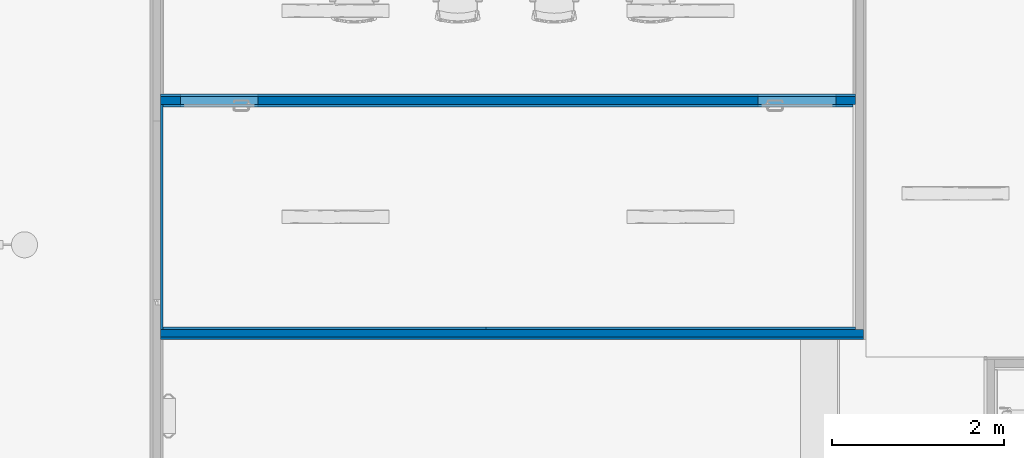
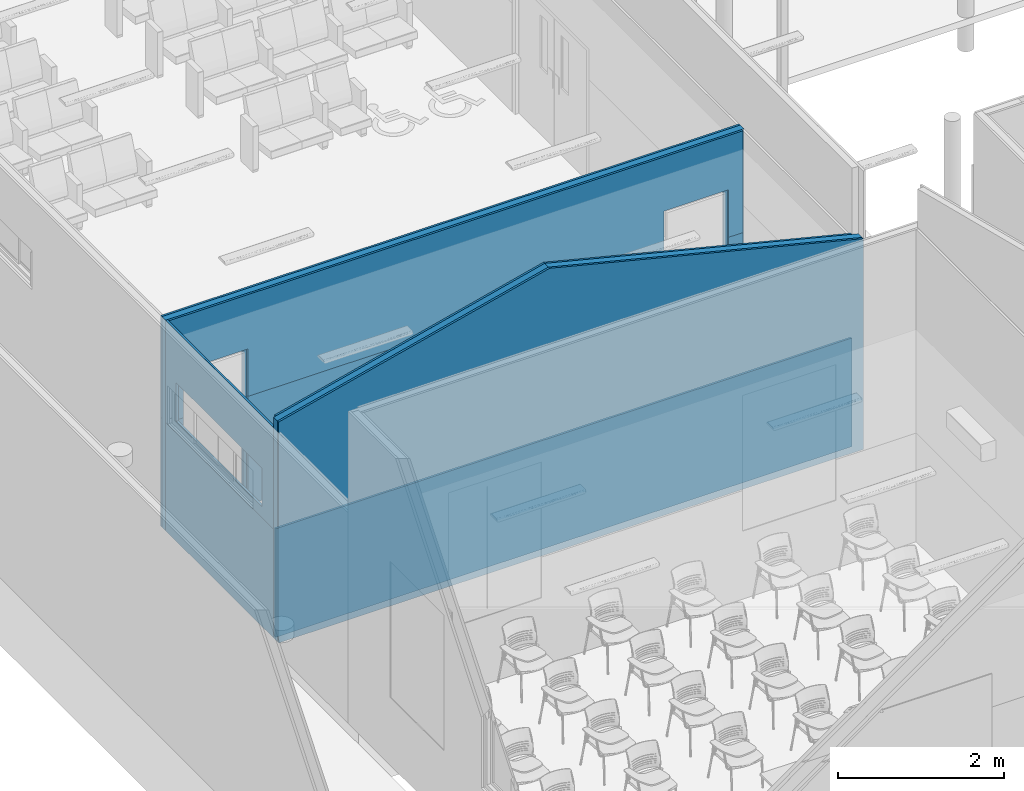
# One storey, part 14 of 155: 11 walls, 28 openings.
"""IFC2X3 building model written with IfcOpenShell, lengths in metres."""

import ifcopenshell
import ifcopenshell.guid

model = None  # the IFC model being written
_history = None  # IfcOwnerHistory: only IFC2X3 demands one
_inside = {}  # id of a spatial element -> (the spatial element, [elements in it])
_under = {}  # id of a project, library or spatial element -> (it, [spatial elements below it])
_declared = {}  # id of a project -> (the project, [libraries it declares])
_typed = {}  # id of a type object -> (the type object, [elements of that type])
_made_of = {}  # id of a material, layer set ... -> (it, [elements and type objects made of it])


def new_model(schema):
    """Start an empty IFC model of exactly this schema.

    Asked for "IFC4X3", IfcOpenShell would pick the latest addendum, in which some entities
    have other attributes; the version numbers below select the first issue.
    IFC2X3 requires an IfcOwnerHistory on every rooted entity: one is made here for all.
    """
    global model, _history
    if schema == "IFC4X3":
        model = ifcopenshell.file(schema_version=(4, 3, 0, 0))
    else:
        model = ifcopenshell.file(schema=schema)
    _inside.clear()
    _under.clear()
    _declared.clear()
    _typed.clear()
    _made_of.clear()
    _history = None
    if model.schema == "IFC2X3":
        org = make("IfcOrganization", Name="unknown")
        user = make(
            "IfcPersonAndOrganization",
            ThePerson=make("IfcPerson", FamilyName="unknown"),
            TheOrganization=org,
        )
        app = make(
            "IfcApplication",
            ApplicationDeveloper=org,
            Version="unknown",
            ApplicationFullName="unknown",
            ApplicationIdentifier="unknown",
        )
        _history = make(
            "IfcOwnerHistory",
            OwningUser=user,
            OwningApplication=app,
            ChangeAction="ADDED",
            CreationDate=0,
        )
    return model


def make(cls, **values):
    """One entity of the class cls with the attributes given. An attribute that is None is left unset."""
    return model.create_entity(
        cls, **{name: value for name, value in values.items() if value is not None}
    )


def entity(cls, *values):
    """Any entity or typed value of the class cls, its attributes in the order of the schema. None: left unset."""
    e = model.create_entity(cls)
    for i, value in enumerate(values):
        if value is not None:
            e[i] = value
    return e


def rooted(cls, **values):
    """An entity with a GlobalId (a new one), such as an element, a storey or a relation."""
    return make(cls, GlobalId=ifcopenshell.guid.new(), OwnerHistory=_history, **values)


def si_unit(unit_type, name, prefix=None):
    """IfcSIUnit, for example si_unit("LENGTHUNIT", "METRE", prefix="MILLI")."""
    return make("IfcSIUnit", UnitType=unit_type, Prefix=prefix, Name=name)


def converted_unit(unit_type, name, factor, base, dimensions=None, offset=None):
    """IfcConversionBasedUnit, such as the inch: factor (a typed value) times the base unit."""
    return make(
        "IfcConversionBasedUnit"
        if offset is None
        else "IfcConversionBasedUnitWithOffset",
        ConversionOffset=offset,
        Dimensions=None
        if dimensions is None
        else entity("IfcDimensionalExponents", *dimensions),
        UnitType=unit_type,
        Name=name,
        ConversionFactor=make(
            "IfcMeasureWithUnit", ValueComponent=factor, UnitComponent=base
        ),
    )


def derived_unit(unit_type, elements):
    """IfcDerivedUnit: a product of units, each with its exponent."""
    return make(
        "IfcDerivedUnit",
        Elements=[
            make("IfcDerivedUnitElement", Unit=unit, Exponent=power)
            for unit, power in elements
        ],
        UnitType=unit_type,
    )


def assignment(units):
    """IfcUnitAssignment: the units of a project."""
    return None if units is None else make("IfcUnitAssignment", Units=units)


def point(xyz):
    """IfcCartesianPoint."""
    return None if xyz is None else make("IfcCartesianPoint", Coordinates=xyz)


def direction(xyz):
    """IfcDirection."""
    return None if xyz is None else make("IfcDirection", DirectionRatios=xyz)


def frame(location, z_axis=None, x_axis=None):
    """IfcAxis2Placement3D, a coordinate frame: its origin and axes. An axis left out is left unset."""
    return make(
        "IfcAxis2Placement3D",
        Location=point(location),
        Axis=direction(z_axis),
        RefDirection=direction(x_axis),
    )


def frame_2d(location, x_axis=None):
    """IfcAxis2Placement2D, a coordinate frame in the plane: its origin and x axis."""
    return make(
        "IfcAxis2Placement2D", Location=point(location), RefDirection=direction(x_axis)
    )


def origin():
    """The frame at (0, 0, 0) with its axes left unset."""
    return frame((0.0, 0.0, 0.0))


def place(relative_to, where):
    """IfcLocalPlacement: puts the frame where relative to a parent placement (None: the world)."""
    return make(
        "IfcLocalPlacement", PlacementRelTo=relative_to, RelativePlacement=where
    )


def context(
    kind, dimensions, precision=None, world=None, true_north=None, identifier=None
):
    """IfcGeometricRepresentationContext, for example the 3D "Model" context."""
    return make(
        "IfcGeometricRepresentationContext",
        ContextIdentifier=identifier,
        ContextType=kind,
        CoordinateSpaceDimension=dimensions,
        Precision=precision,
        WorldCoordinateSystem=world,
        TrueNorth=true_north,
    )


def subcontext(parent, identifier, kind, view, scale=None):
    """IfcGeometricRepresentationSubContext, for example "Body" below "Model"."""
    return make(
        "IfcGeometricRepresentationSubContext",
        ContextIdentifier=identifier,
        ContextType=kind,
        ParentContext=parent,
        TargetScale=scale,
        TargetView=view,
    )


def project(units=None, contexts=None):
    """IfcProject with its units and contexts."""
    return rooted(
        "IfcProject",
        Name="project",
        RepresentationContexts=contexts,
        UnitsInContext=assignment(units),
    )


def spatial(cls, under=None, at=None, **own):
    """A site, building, storey or space (cls), placed at a placement, below another one or the project."""
    s = rooted(cls, ObjectPlacement=at, **own)
    if under is not None:
        _under.setdefault(under.id(), (under, []))[1].append(s)
    return s


def polyline(points):
    """IfcPolyline through the points."""
    return make("IfcPolyline", Points=[point(p) for p in points])


def profile(cls, at=None, kind="AREA", **sizes):
    """A parametric profile (cls). Its sizes go by their IFC names, for example OverallWidth=200.0."""
    return make(cls, ProfileType=kind, Position=at, **sizes)


def rectangle(**sizes):
    """IfcRectangleProfileDef."""
    return profile("IfcRectangleProfileDef", **sizes)


def extrude(swept, where, along, depth):
    """IfcExtrudedAreaSolid: the profile swept, set in the frame where, extruded along a direction by depth."""
    return make(
        "IfcExtrudedAreaSolid",
        SweptArea=swept,
        Position=where,
        ExtrudedDirection=direction(along),
        Depth=depth,
    )


def clip(a, b, op="DIFFERENCE"):
    """IfcBooleanClippingResult: the solid a cut by the half space b."""
    return make(
        "IfcBooleanClippingResult", Operator=op, FirstOperand=a, SecondOperand=b
    )


def bounded_halfspace(plane, agree, where, boundary):
    """IfcPolygonalBoundedHalfSpace: a half space limited to a polygon's prism."""
    return make(
        "IfcPolygonalBoundedHalfSpace",
        BaseSurface=make("IfcPlane", Position=plane),
        AgreementFlag=agree,
        Position=where,
        PolygonalBoundary=boundary,
    )


def shape(context_of_items, identifier, shape_type, items):
    """IfcShapeRepresentation: the items that make up one representation, for example the "Body"."""
    return make(
        "IfcShapeRepresentation",
        ContextOfItems=context_of_items,
        RepresentationIdentifier=identifier,
        RepresentationType=shape_type,
        Items=items,
    )


def material(Name=None, Category=None):
    """IfcMaterial."""
    return make("IfcMaterial", Name=Name, Category=Category)


def layer(
    of_material, thickness, ventilated=None, Name=None, Category=None, Priority=None
):
    """IfcMaterialLayer: one layer of a wall or slab, of a material (None: an air gap)."""
    return make(
        "IfcMaterialLayer",
        Material=of_material,
        LayerThickness=thickness,
        IsVentilated=ventilated,
        Name=Name,
        Category=Category,
        Priority=Priority,
    )


def layer_set(layers, Name=None):
    """IfcMaterialLayerSet."""
    return make("IfcMaterialLayerSet", MaterialLayers=layers, LayerSetName=Name)


def layer_usage(for_layer_set, set_direction, sense, offset, extent=None):
    """IfcMaterialLayerSetUsage: how a layer set lies in its element."""
    return make(
        "IfcMaterialLayerSetUsage",
        ForLayerSet=for_layer_set,
        LayerSetDirection=set_direction,
        DirectionSense=sense,
        OffsetFromReferenceLine=offset,
        ReferenceExtent=extent,
    )


def made_of(thing, what):
    """Note that an element or type object is made of a material, layer set ...; save() writes the relation."""
    if what is not None:
        _made_of.setdefault(what.id(), (what, []))[1].append(thing)
    return thing


def type_object(cls, material=None, **own):
    """A type object (cls), such as IfcWallType, which elements share."""
    return made_of(rooted(cls, **own), material)


def element(
    cls,
    number,
    at=None,
    inside=None,
    cuts=None,
    type_object=None,
    material=None,
    context=None,
    identifier="Body",
    shape_type=None,
    held_by="IfcProductDefinitionShape",
    body=None,
    shapes=None,
    **own,
):
    """One element of the class cls, such as IfcWall. Its Tag is "e" and its number.

    at: its placement. inside: the storey or other place that contains it. cuts: it is an
    opening in that element (IfcRelVoidsElement). A single representation is given by context,
    identifier, shape_type and body (its items); several are given by shapes. held_by: the class
    of the entity that holds the representations. save() writes the other relations.
    """
    e = rooted(cls, Tag="e%d" % number, ObjectPlacement=at, **own)
    if body is not None:
        shapes = [shape(context, identifier, shape_type, body)]
    if shapes is not None:
        e.Representation = make(held_by, Representations=shapes)
    if inside is not None:
        _inside.setdefault(inside.id(), (inside, []))[1].append(e)
    if cuts is not None:
        rooted(
            "IfcRelVoidsElement", RelatingBuildingElement=cuts, RelatedOpeningElement=e
        )
    if type_object is not None:
        _typed.setdefault(type_object.id(), (type_object, []))[1].append(e)
    return made_of(e, material)


def aggregate(whole, parts):
    """IfcRelAggregates: a whole, such as a stair, and the parts it consists of."""
    return rooted("IfcRelAggregates", RelatingObject=whole, RelatedObjects=parts)


def save(model, path):
    """Write the relations noted so far, then the file.

    IfcRelAggregates (storeys below a building ...), IfcRelContainedInSpatialStructure (elements
    in a storey), IfcRelDefinesByType, IfcRelAssociatesMaterial and IfcRelDeclares: one each for
    every whole, place, type object, material and project.
    """
    for whole, parts in _under.values():
        aggregate(whole, parts)
    for where, things in _inside.values():
        rooted(
            "IfcRelContainedInSpatialStructure",
            RelatedElements=things,
            RelatingStructure=where,
        )
    for kind, things in _typed.values():
        rooted("IfcRelDefinesByType", RelatedObjects=things, RelatingType=kind)
    for what, things in _made_of.values():
        rooted("IfcRelAssociatesMaterial", RelatedObjects=things, RelatingMaterial=what)
    for by, libraries in _declared.values():
        rooted("IfcRelDeclares", RelatingContext=by, RelatedDefinitions=libraries)
    model.write(path)


model = new_model("IFC2X3")

# Units and contexts
model_context = context("Model", 3, precision=1e-05, world=origin(), true_north=direction((6.12303176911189e-17, 1.0)))
body_context = subcontext(model_context, "Body", "Model", "MODEL_VIEW")
ifc_project = project(units=[si_unit("LENGTHUNIT", "METRE"), si_unit("AREAUNIT", "SQUARE_METRE"), si_unit("VOLUMEUNIT", "CUBIC_METRE"), converted_unit("PLANEANGLEUNIT", "DEGREE", entity("IfcRatioMeasure", 0.0174532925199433), si_unit("PLANEANGLEUNIT", "RADIAN"), dimensions=[0, 0, 0, 0, 0, 0, 0]), si_unit("MASSUNIT", "GRAM", prefix="KILO"), derived_unit("MASSDENSITYUNIT", [(si_unit("MASSUNIT", "GRAM", prefix="KILO"), 1), (si_unit("LENGTHUNIT", "METRE"), -3)]), si_unit("TIMEUNIT", "SECOND"), si_unit("FREQUENCYUNIT", "HERTZ"), si_unit("THERMODYNAMICTEMPERATUREUNIT", "DEGREE_CELSIUS"), derived_unit("THERMALTRANSMITTANCEUNIT", [(si_unit("MASSUNIT", "GRAM", prefix="KILO"), 1), (si_unit("THERMODYNAMICTEMPERATUREUNIT", "KELVIN"), -1), (si_unit("TIMEUNIT", "SECOND"), -3)]), derived_unit("VOLUMETRICFLOWRATEUNIT", [(si_unit("LENGTHUNIT", "METRE"), 3), (si_unit("TIMEUNIT", "SECOND"), -1)]), si_unit("ELECTRICCURRENTUNIT", "AMPERE"), si_unit("ELECTRICVOLTAGEUNIT", "VOLT"), si_unit("POWERUNIT", "WATT"), si_unit("FORCEUNIT", "NEWTON", prefix="KILO"), si_unit("ILLUMINANCEUNIT", "LUX"), si_unit("LUMINOUSFLUXUNIT", "LUMEN"), si_unit("LUMINOUSINTENSITYUNIT", "CANDELA"), derived_unit("USERDEFINED", [(si_unit("MASSUNIT", "GRAM", prefix="KILO"), -1), (si_unit("LENGTHUNIT", "METRE"), -2), (si_unit("TIMEUNIT", "SECOND"), 3), (si_unit("LUMINOUSFLUXUNIT", "LUMEN"), 1)]), derived_unit("LINEARVELOCITYUNIT", [(si_unit("LENGTHUNIT", "METRE"), 1), (si_unit("TIMEUNIT", "SECOND"), -1)]), si_unit("PRESSUREUNIT", "PASCAL"), derived_unit("USERDEFINED", [(si_unit("LENGTHUNIT", "METRE"), -2), (si_unit("MASSUNIT", "GRAM", prefix="KILO"), 1), (si_unit("TIMEUNIT", "SECOND"), -2)])], contexts=[model_context])

# Site, building, storey
site_placement = place(None, frame((26.9889013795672, -17.5624287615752, 0.0)))
site = spatial("IfcSite", under=ifc_project, at=site_placement, Name="Default", CompositionType="ELEMENT")
building_placement = place(site_placement, origin())
building = spatial("IfcBuilding", under=site, at=building_placement, Name="C. C. L. Monsenhor Antônio Sampaio", CompositionType="ELEMENT")
storey_placement = place(building_placement, frame((0.0, 0.0, 1.19999999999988)))
storey = spatial("IfcBuildingStorey", under=building, at=storey_placement, Name="Nível 1.2", CompositionType="ELEMENT", Elevation=1.19999999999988)

# Wall
ifc_material_1 = material(Name="ALVENARIA")
ifc_layer_1 = layer(ifc_material_1, 0.09)
ifc_layer_set_1 = layer_set([ifc_layer_1], Name="Parede básica:ENucleo parede 15cm")
ifc_layer_usage_1 = layer_usage(ifc_layer_set_1, "AXIS2", "NEGATIVE", 0.045)
wall_type_1 = type_object("IfcWallType", Name="Parede básica:ENucleo parede 15cm", PredefinedType="STANDARD", material=ifc_layer_set_1)
wall_1_placement = place(storey_placement, frame((-14.020552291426, -26.3780663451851, 0.0)))
element("IfcWallStandardCase", 1, at=wall_1_placement, inside=storey, type_object=wall_type_1, material=ifc_layer_usage_1, Name="Parede básica:ENucleo parede 15cm", ObjectType="Parede básica:ENucleo parede 15cm", context=body_context, shape_type="Clipping", body=[
    clip(clip(clip(extrude(rectangle(XDim=8.1499999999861, YDim=0.0899999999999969, at=frame_2d((4.07499999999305, 0.0), x_axis=(-1.0, 0.0))), origin(), (0.0, 0.0, 1.0), 4.19909049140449), bounded_halfspace(frame((3.77636196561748, -0.0450000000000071, 4.19909049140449), z_axis=(0.242535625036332, 0.0, 0.970142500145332), x_axis=(0.0, 1.0, 0.0)), False, frame((3.77636196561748, -0.0450000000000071, 4.19909049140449)), polyline([(0.0, 0.0), (4.37210840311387, 0.0), (4.37210840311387, 0.0900000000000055), (4.28363803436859, 0.0900000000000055), (0.0, 0.0900000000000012), (0.0, 0.0)]))), bounded_halfspace(frame((0.0, -0.0450000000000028, 3.25500000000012), z_axis=(-0.242535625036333, 0.0, 0.970142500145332), x_axis=(0.0, -1.0, 0.0)), False, frame((0.0, -0.0450000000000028, 3.25500000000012)), polyline([(0.0, 0.0), (3.77636196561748, 0.0), (3.77636196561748, 0.0899999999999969), (0.0300000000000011, 0.0900000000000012), (0.0, 0.0900000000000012), (0.0, 0.0)]))), bounded_halfspace(frame((8.14847036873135, -0.0450000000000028, 3.10000000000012), z_axis=(0.0, 0.0, 1.0), x_axis=(0.0, 1.0, 0.0)), False, frame((8.14847036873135, -0.0450000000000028, 3.10000000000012)), polyline([(0.0, 0.0), (0.00152963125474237, 0.0), (0.00152963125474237, 0.0900000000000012), (0.0, 0.0900000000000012), (0.0, 0.0)]))),
])

# Wall, openings
ifc_layer_usage_2 = layer_usage(ifc_layer_set_1, "AXIS2", "POSITIVE", -0.045)
wall_2_placement = place(storey_placement, frame((-14.020552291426, -23.6780663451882, 0.0)))
wall_2 = element("IfcWallStandardCase", 2, at=wall_2_placement, inside=storey, type_object=wall_type_1, material=ifc_layer_usage_2, Name="Parede básica:ENucleo parede 15cm", ObjectType="Parede básica:ENucleo parede 15cm", context=body_context, shape_type="SweptSolid", body=[
    extrude(rectangle(XDim=8.05999999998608, YDim=0.0899999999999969, at=frame_2d((4.02999999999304, 0.0), x_axis=(-1.0, 0.0))), origin(), (0.0, 0.0, 1.0), 3.10000000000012),
])
opening_1_placement = place(wall_2_placement, origin())
element("IfcOpeningElement", 3, at=opening_1_placement, cuts=wall_2, Name="Parede básica:ENucleo parede 15cm", ObjectType="Opening", context=body_context, shape_type="SweptSolid", body=[
    extrude(rectangle(XDim=2.09999999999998, YDim=0.9, at=frame_2d((5.27355936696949e-16, 3.33066907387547e-16), x_axis=(0.0, 1.0))), frame((7.3799999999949, -1.599, 1.24999999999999), z_axis=(0.0, 1.0, 0.0), x_axis=(-1.0, 0.0, 0.0)), (0.0, 0.0, 1.0), 3.048),
])
opening_2_placement = place(wall_2_placement, origin())
element("IfcOpeningElement", 4, at=opening_2_placement, cuts=wall_2, Name="Parede básica:ENucleo parede 15cm", ObjectType="Opening", context=body_context, shape_type="SweptSolid", body=[
    extrude(rectangle(XDim=2.09999999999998, YDim=0.899999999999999, at=frame_2d((3.33066907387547e-16, 0.0), x_axis=(1.0, 0.0))), frame((0.68, -1.59900000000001, 1.24999999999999), z_axis=(0.0, 1.0, 0.0), x_axis=(0.0, 0.0, 1.0)), (0.0, 0.0, 1.0), 3.048),
])

ifc_material_2 = material(Name=".CERÂMICA 10x10 BRANCA")
ifc_layer_2 = layer(ifc_material_2, 0.0035)
ifc_material_3 = material(Name="Argamassa Colante")
ifc_layer_3 = layer(ifc_material_3, 0.02)
ifc_material_4 = material(Name="4")
ifc_layer_4 = layer(ifc_material_4, 0.0015)
ifc_material_5 = material(Name="3")
ifc_layer_5 = layer(ifc_material_5, 0.005)
ifc_layer_set_2 = layer_set([ifc_layer_2, ifc_layer_3, ifc_layer_4, ifc_layer_5], Name="Parede básica:ECeramica branca 10x10cm")
ifc_layer_usage_3 = layer_usage(ifc_layer_set_2, "AXIS2", "NEGATIVE", 0.015)
wall_type_2 = type_object("IfcWallType", Name="Parede básica:ECeramica branca 10x10cm", PredefinedType="STANDARD", material=ifc_layer_set_2)
wall_3_placement = place(storey_placement, frame((-14.005552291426, -23.7230663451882, 0.0), z_axis=(0.0, 0.0, 1.0), x_axis=(0.0, -1.0, 0.0)))
wall_3 = element("IfcWallStandardCase", 5, at=wall_3_placement, inside=storey, type_object=wall_type_2, material=ifc_layer_usage_3, Name="Parede básica:ECeramica branca 10x10cm", ObjectType="Parede básica:ECeramica branca 10x10cm", context=body_context, shape_type="SweptSolid", body=[
    extrude(rectangle(XDim=2.60999999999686, YDim=0.0300000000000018, at=frame_2d((1.30499999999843, 0.0), x_axis=(-1.0, 0.0))), origin(), (0.0, 0.0, 1.0), 1.6),
])
opening_3_placement = place(wall_3_placement, origin())
element("IfcOpeningElement", 6, at=opening_3_placement, cuts=wall_3, Name="Parede básica:ECeramica branca 10x10cm", ObjectType="Opening", context=body_context, shape_type="SweptSolid", body=[
    extrude(rectangle(XDim=0.570000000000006, YDim=2.07, at=frame_2d((0.0, 2.77555756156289e-16), x_axis=(0.0, 1.0))), frame((1.28999999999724, -1.539, 2.05000000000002), z_axis=(0.0, 1.0, 0.0), x_axis=(-1.0, 0.0, 0.0)), (0.0, 0.0, 1.0), 3.048),
])
opening_4_placement = place(wall_3_placement, origin())
element("IfcOpeningElement", 7, at=opening_4_placement, cuts=wall_3, Name="Parede básica:ECeramica branca 10x10cm", ObjectType="Opening", context=body_context, shape_type="SweptSolid", body=[
    extrude(rectangle(XDim=2.0, YDim=1.30000000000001, at=frame_2d((0.0, -3.88578058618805e-16), x_axis=(0.0, 1.0))), frame((6.2799999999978, -1.539, 2.0), z_axis=(0.0, 1.0, 0.0), x_axis=(-1.0, 0.0, 0.0)), (0.0, 0.0, 1.0), 3.048),
])
opening_5_placement = place(wall_3_placement, origin())
element("IfcOpeningElement", 8, at=opening_5_placement, cuts=wall_3, Name="Parede básica:ECeramica branca 10x10cm", ObjectType="Opening", context=body_context, shape_type="SweptSolid", body=[
    extrude(rectangle(XDim=2.0, YDim=1.30000000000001, at=frame_2d((1.66533453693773e-16, 0.0), x_axis=(1.0, 0.0))), frame((8.47999999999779, -1.629, 2.0), z_axis=(0.0, 1.0, 0.0), x_axis=(0.0, 0.0, 1.0)), (0.0, 0.0, 1.0), 3.048),
])
opening_6_placement = place(wall_3_placement, origin())
element("IfcOpeningElement", 9, at=opening_6_placement, cuts=wall_3, Name="Parede básica:ECeramica branca 10x10cm", ObjectType="Opening", context=body_context, shape_type="SweptSolid", body=[
    extrude(rectangle(XDim=2.0, YDim=1.30000000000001, at=frame_2d((0.0, -3.88578058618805e-16), x_axis=(0.0, 1.0))), frame((11.7000000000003, -1.539, 2.0), z_axis=(0.0, 1.0, 0.0), x_axis=(-1.0, 0.0, 0.0)), (0.0, 0.0, 1.0), 3.048),
])
opening_7_placement = place(wall_3_placement, origin())
element("IfcOpeningElement", 10, at=opening_7_placement, cuts=wall_3, Name="Parede básica:ECeramica branca 10x10cm", ObjectType="Opening", context=body_context, shape_type="SweptSolid", body=[
    extrude(rectangle(XDim=2.0, YDim=1.30000000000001, at=frame_2d((0.0, -3.88578058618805e-16), x_axis=(0.0, 1.0))), frame((14.0, -1.539, 2.0), z_axis=(0.0, 1.0, 0.0), x_axis=(-1.0, 0.0, 0.0)), (0.0, 0.0, 1.0), 3.048),
])
opening_8_placement = place(wall_3_placement, origin())
element("IfcOpeningElement", 11, at=opening_8_placement, cuts=wall_3, Name="Parede básica:ECeramica branca 10x10cm", ObjectType="Opening", context=body_context, shape_type="SweptSolid", body=[
    extrude(rectangle(XDim=0.569999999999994, YDim=3.07, at=frame_2d((0.0, 2.77555756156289e-16), x_axis=(0.0, 1.0))), frame((-11.9500000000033, -1.539, 2.05000000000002), z_axis=(0.0, 1.0, 0.0), x_axis=(-1.0, 0.0, 0.0)), (0.0, 0.0, 1.0), 3.048),
])
opening_9_placement = place(wall_3_placement, origin())
element("IfcOpeningElement", 12, at=opening_9_placement, cuts=wall_3, Name="Parede básica:ECeramica branca 10x10cm", ObjectType="Opening", context=body_context, shape_type="SweptSolid", body=[
    extrude(rectangle(XDim=0.569999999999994, YDim=3.07, at=frame_2d((0.0, 2.77555756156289e-16), x_axis=(0.0, 1.0))), frame((-8.25000000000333, -1.539, 2.05000000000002), z_axis=(0.0, 1.0, 0.0), x_axis=(-1.0, 0.0, 0.0)), (0.0, 0.0, 1.0), 3.048),
])
opening_10_placement = place(wall_3_placement, origin())
element("IfcOpeningElement", 13, at=opening_10_placement, cuts=wall_3, Name="Parede básica:ECeramica branca 10x10cm", ObjectType="Opening", context=body_context, shape_type="SweptSolid", body=[
    extrude(rectangle(XDim=0.569999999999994, YDim=3.07, at=frame_2d((1.11022302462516e-15, 2.77555756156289e-16), x_axis=(0.0, 1.0))), frame((-4.55000000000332, -1.539, 2.05000000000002), z_axis=(0.0, 1.0, 0.0), x_axis=(-1.0, 0.0, 0.0)), (0.0, 0.0, 1.0), 3.048),
])
opening_11_placement = place(wall_3_placement, origin())
element("IfcOpeningElement", 14, at=opening_11_placement, cuts=wall_3, Name="Parede básica:ECeramica branca 10x10cm", ObjectType="Opening", context=body_context, shape_type="SweptSolid", body=[
    extrude(rectangle(XDim=2.15999999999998, YDim=0.879999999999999, at=frame_2d((0.0, 0.0), x_axis=(0.0, 1.0))), frame((-15.709999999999, -1.629, 1.07999999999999), z_axis=(0.0, 1.0, 0.0), x_axis=(-1.0, 0.0, 0.0)), (0.0, 0.0, 1.0), 3.048),
])

# Wall
ifc_layer_usage_4 = layer_usage(ifc_layer_set_2, "AXIS2", "NEGATIVE", 0.015)
wall_4_placement = place(storey_placement, frame((-13.990552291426, -26.3180663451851, 0.0)))
element("IfcWallStandardCase", 15, at=wall_4_placement, inside=storey, type_object=wall_type_2, material=ifc_layer_usage_4, Name="Parede básica:ECeramica branca 10x10cm", ObjectType="Parede básica:ECeramica branca 10x10cm", context=body_context, shape_type="Clipping", body=[
    clip(extrude(rectangle(XDim=8.02999999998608, YDim=0.0300000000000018, at=frame_2d((4.01499999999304, 0.0), x_axis=(-1.0, 0.0))), origin(), (0.0, 0.0, 1.0), 1.6), bounded_halfspace(frame((0.0, -0.0150000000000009, 1.6), z_axis=(0.0, 0.0, -1.0), x_axis=(0.0, 1.0, 0.0)), True, frame((0.0, -0.0150000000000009, 1.6)), polyline([(0.0, 0.0), (8.02999999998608, 0.0), (8.02999999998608, 0.0300000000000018), (0.0, 0.0300000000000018), (0.0, 0.0)]))),
])

# Wall, openings
ifc_layer_usage_5 = layer_usage(ifc_layer_set_2, "AXIS2", "NEGATIVE", 0.015)
wall_5_placement = place(storey_placement, frame((-5.99055229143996, -23.7380663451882, 0.0), z_axis=(0.0, 0.0, 1.0), x_axis=(-1.0, 0.0, 0.0)))
wall_5 = element("IfcWallStandardCase", 16, at=wall_5_placement, inside=storey, type_object=wall_type_2, material=ifc_layer_usage_5, Name="Parede básica:ECeramica branca 10x10cm", ObjectType="Parede básica:ECeramica branca 10x10cm", context=body_context, shape_type="SweptSolid", body=[
    extrude(rectangle(XDim=7.99999999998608, YDim=0.0300000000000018, at=frame_2d((3.99999999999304, 0.0), x_axis=(-1.0, 0.0))), origin(), (0.0, 0.0, 1.0), 1.6),
])
opening_12_placement = place(wall_5_placement, origin())
element("IfcOpeningElement", 17, at=opening_12_placement, cuts=wall_5, Name="Parede básica:ECeramica branca 10x10cm", ObjectType="Opening", context=body_context, shape_type="SweptSolid", body=[
    extrude(rectangle(XDim=2.09999999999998, YDim=0.9, at=frame_2d((3.33066907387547e-16, -5.27355936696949e-16), x_axis=(1.0, 0.0))), frame((0.649999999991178, -1.509, 1.24999999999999), z_axis=(0.0, 1.0, 0.0), x_axis=(0.0, 0.0, 1.0)), (0.0, 0.0, 1.0), 3.048),
])
opening_13_placement = place(wall_5_placement, origin())
element("IfcOpeningElement", 18, at=opening_13_placement, cuts=wall_5, Name="Parede básica:ECeramica branca 10x10cm", ObjectType="Opening", context=body_context, shape_type="SweptSolid", body=[
    extrude(rectangle(XDim=2.09999999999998, YDim=0.899999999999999, at=frame_2d((0.0, 3.33066907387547e-16), x_axis=(0.0, 1.0))), frame((7.34999999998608, -1.50899999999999, 1.24999999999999), z_axis=(0.0, 1.0, 0.0), x_axis=(-1.0, 0.0, 0.0)), (0.0, 0.0, 1.0), 3.048),
])

ifc_layer_usage_6 = layer_usage(ifc_layer_set_2, "AXIS2", "NEGATIVE", 0.015)
wall_6_placement = place(storey_placement, frame((-14.020552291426, -23.6180663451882, 0.0)))
wall_6 = element("IfcWallStandardCase", 19, at=wall_6_placement, inside=storey, type_object=wall_type_2, material=ifc_layer_usage_6, Name="Parede básica:ECeramica branca 10x10cm", ObjectType="Parede básica:ECeramica branca 10x10cm", context=body_context, shape_type="SweptSolid", body=[
    extrude(rectangle(XDim=8.05999999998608, YDim=0.0300000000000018, at=frame_2d((4.02999999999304, 0.0), x_axis=(-1.0, 0.0))), origin(), (0.0, 0.0, 1.0), 1.6),
])
opening_14_placement = place(wall_6_placement, origin())
element("IfcOpeningElement", 20, at=opening_14_placement, cuts=wall_6, Name="Parede básica:ECeramica branca 10x10cm", ObjectType="Opening", context=body_context, shape_type="SweptSolid", body=[
    extrude(rectangle(XDim=2.09999999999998, YDim=0.9, at=frame_2d((5.27355936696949e-16, 3.33066907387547e-16), x_axis=(0.0, 1.0))), frame((7.3799999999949, -1.659, 1.24999999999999), z_axis=(0.0, 1.0, 0.0), x_axis=(-1.0, 0.0, 0.0)), (0.0, 0.0, 1.0), 3.048),
])
opening_15_placement = place(wall_6_placement, origin())
element("IfcOpeningElement", 21, at=opening_15_placement, cuts=wall_6, Name="Parede básica:ECeramica branca 10x10cm", ObjectType="Opening", context=body_context, shape_type="SweptSolid", body=[
    extrude(rectangle(XDim=2.09999999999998, YDim=0.899999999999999, at=frame_2d((3.33066907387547e-16, 0.0), x_axis=(1.0, 0.0))), frame((0.68, -1.65900000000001, 1.24999999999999), z_axis=(0.0, 1.0, 0.0), x_axis=(0.0, 0.0, 1.0)), (0.0, 0.0, 1.0), 3.048),
])

# Wall
ifc_layer_usage_7 = layer_usage(ifc_layer_set_2, "AXIS2", "NEGATIVE", 0.015)
wall_7_placement = place(storey_placement, frame((-5.87055229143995, -26.4380663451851, 0.0), z_axis=(0.0, 0.0, 1.0), x_axis=(-1.0, 0.0, 0.0)))
element("IfcWallStandardCase", 22, at=wall_7_placement, inside=storey, type_object=wall_type_2, material=ifc_layer_usage_7, Name="Parede básica:ECeramica branca 10x10cm", ObjectType="Parede básica:ECeramica branca 10x10cm", context=body_context, shape_type="Clipping", body=[
    clip(clip(clip(extrude(rectangle(XDim=8.14999999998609, YDim=0.0300000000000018, at=frame_2d((4.07499999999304, -2.42861286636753e-17), x_axis=(-1.0, 0.0))), origin(), (0.0, 0.0, 1.0), 4.19909049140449), bounded_halfspace(frame((0.00152963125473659, -0.0150000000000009, 3.10606339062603), z_axis=(-0.242535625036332, 0.0, 0.970142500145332), x_axis=(0.0, -1.0, 0.0)), False, frame((0.00152963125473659, -0.0150000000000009, 3.10606339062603)), polyline([(0.0, 0.0), (4.37210840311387, 0.0), (4.37210840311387, 0.0299999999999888), (0.0, 0.0300000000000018), (0.0, 0.0)]))), bounded_halfspace(frame((4.37363803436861, -0.0149999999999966, 4.19909049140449), z_axis=(0.242535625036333, 0.0, 0.970142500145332), x_axis=(0.0, 1.0, 0.0)), False, frame((4.37363803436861, -0.0149999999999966, 4.19909049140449)), polyline([(0.0, 0.0), (3.77636196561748, 0.0), (3.77636196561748, 0.0299999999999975), (0.0, 0.0300000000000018), (0.0, 0.0)]))), bounded_halfspace(frame((0.0, -0.0150000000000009, 3.10000000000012), z_axis=(0.0, 0.0, 1.0), x_axis=(0.0, 1.0, 0.0)), False, frame((0.0, -0.0150000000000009, 3.10000000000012)), polyline([(0.0, 0.0), (0.00152963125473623, 0.0), (0.00152963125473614, 0.0300000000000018), (0.0, 0.0300000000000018), (0.0, 0.0)]))),
])

# Wall, openings
ifc_material_6 = material(Name="Acabamento Branco")
ifc_layer_6 = layer(ifc_material_6, 0.0035)
ifc_material_7 = material(Name="Massa corrida")
ifc_layer_7 = layer(ifc_material_7, 0.02)
ifc_layer_8 = layer(ifc_material_4, 0.0015)
ifc_layer_9 = layer(ifc_material_5, 0.005)
ifc_layer_set_3 = layer_set([ifc_layer_6, ifc_layer_7, ifc_layer_8, ifc_layer_9], Name="Parede básica:EPintura Branca")
ifc_layer_usage_8 = layer_usage(ifc_layer_set_3, "AXIS2", "NEGATIVE", 0.015)
wall_type_3 = type_object("IfcWallType", Name="Parede básica:EPintura Branca", PredefinedType="STANDARD", material=ifc_layer_set_3)
wall_8_placement = place(storey_placement, frame((-14.005552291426, -23.7230663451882, 1.6), z_axis=(0.0, 0.0, 1.0), x_axis=(0.0, -1.0, 0.0)))
wall_8 = element("IfcWallStandardCase", 23, at=wall_8_placement, inside=storey, type_object=wall_type_3, material=ifc_layer_usage_8, Name="Parede básica:EPintura Branca", ObjectType="Parede básica:EPintura Branca", context=body_context, shape_type="SweptSolid", body=[
    extrude(rectangle(XDim=2.60999999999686, YDim=0.0300000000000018, at=frame_2d((1.30499999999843, 0.0), x_axis=(-1.0, 0.0))), origin(), (0.0, 0.0, 1.0), 1.50000000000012),
])
opening_16_placement = place(wall_8_placement, origin())
element("IfcOpeningElement", 24, at=opening_16_placement, cuts=wall_8, Name="Parede básica:EPintura Branca", ObjectType="Opening", context=body_context, shape_type="SweptSolid", body=[
    extrude(rectangle(XDim=0.570000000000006, YDim=2.07, at=frame_2d((0.0, 2.77555756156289e-16), x_axis=(0.0, 1.0))), frame((1.28999999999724, -1.539, 0.450000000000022), z_axis=(0.0, 1.0, 0.0), x_axis=(-1.0, 0.0, 0.0)), (0.0, 0.0, 1.0), 3.048),
])
opening_17_placement = place(wall_8_placement, origin())
element("IfcOpeningElement", 25, at=opening_17_placement, cuts=wall_8, Name="Parede básica:EPintura Branca", ObjectType="Opening", context=body_context, shape_type="SweptSolid", body=[
    extrude(rectangle(XDim=2.0, YDim=1.30000000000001, at=frame_2d((0.0, -3.88578058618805e-16), x_axis=(0.0, 1.0))), frame((6.2799999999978, -1.539, 0.400000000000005), z_axis=(0.0, 1.0, 0.0), x_axis=(-1.0, 0.0, 0.0)), (0.0, 0.0, 1.0), 3.048),
])
opening_18_placement = place(wall_8_placement, origin())
element("IfcOpeningElement", 26, at=opening_18_placement, cuts=wall_8, Name="Parede básica:EPintura Branca", ObjectType="Opening", context=body_context, shape_type="SweptSolid", body=[
    extrude(rectangle(XDim=2.0, YDim=1.30000000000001, at=frame_2d((1.66533453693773e-16, 0.0), x_axis=(1.0, 0.0))), frame((8.47999999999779, -1.629, 0.400000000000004), z_axis=(0.0, 1.0, 0.0), x_axis=(0.0, 0.0, 1.0)), (0.0, 0.0, 1.0), 3.048),
])
opening_19_placement = place(wall_8_placement, origin())
element("IfcOpeningElement", 27, at=opening_19_placement, cuts=wall_8, Name="Parede básica:EPintura Branca", ObjectType="Opening", context=body_context, shape_type="SweptSolid", body=[
    extrude(rectangle(XDim=2.0, YDim=1.30000000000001, at=frame_2d((0.0, -3.88578058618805e-16), x_axis=(0.0, 1.0))), frame((11.7000000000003, -1.539, 0.400000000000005), z_axis=(0.0, 1.0, 0.0), x_axis=(-1.0, 0.0, 0.0)), (0.0, 0.0, 1.0), 3.048),
])
opening_20_placement = place(wall_8_placement, origin())
element("IfcOpeningElement", 28, at=opening_20_placement, cuts=wall_8, Name="Parede básica:EPintura Branca", ObjectType="Opening", context=body_context, shape_type="SweptSolid", body=[
    extrude(rectangle(XDim=2.0, YDim=1.30000000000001, at=frame_2d((0.0, -3.88578058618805e-16), x_axis=(0.0, 1.0))), frame((14.0, -1.539, 0.400000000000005), z_axis=(0.0, 1.0, 0.0), x_axis=(-1.0, 0.0, 0.0)), (0.0, 0.0, 1.0), 3.048),
])
opening_21_placement = place(wall_8_placement, origin())
element("IfcOpeningElement", 29, at=opening_21_placement, cuts=wall_8, Name="Parede básica:EPintura Branca", ObjectType="Opening", context=body_context, shape_type="SweptSolid", body=[
    extrude(rectangle(XDim=0.569999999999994, YDim=3.07, at=frame_2d((0.0, 2.77555756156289e-16), x_axis=(0.0, 1.0))), frame((-11.9500000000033, -1.539, 0.45000000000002), z_axis=(0.0, 1.0, 0.0), x_axis=(-1.0, 0.0, 0.0)), (0.0, 0.0, 1.0), 3.048),
])
opening_22_placement = place(wall_8_placement, origin())
element("IfcOpeningElement", 30, at=opening_22_placement, cuts=wall_8, Name="Parede básica:EPintura Branca", ObjectType="Opening", context=body_context, shape_type="SweptSolid", body=[
    extrude(rectangle(XDim=0.569999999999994, YDim=3.07, at=frame_2d((0.0, 2.77555756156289e-16), x_axis=(0.0, 1.0))), frame((-8.25000000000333, -1.539, 0.45000000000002), z_axis=(0.0, 1.0, 0.0), x_axis=(-1.0, 0.0, 0.0)), (0.0, 0.0, 1.0), 3.048),
])
opening_23_placement = place(wall_8_placement, origin())
element("IfcOpeningElement", 31, at=opening_23_placement, cuts=wall_8, Name="Parede básica:EPintura Branca", ObjectType="Opening", context=body_context, shape_type="SweptSolid", body=[
    extrude(rectangle(XDim=0.569999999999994, YDim=3.07, at=frame_2d((1.11022302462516e-15, 2.77555756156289e-16), x_axis=(0.0, 1.0))), frame((-4.55000000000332, -1.539, 0.45000000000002), z_axis=(0.0, 1.0, 0.0), x_axis=(-1.0, 0.0, 0.0)), (0.0, 0.0, 1.0), 3.048),
])
opening_24_placement = place(wall_8_placement, origin())
element("IfcOpeningElement", 32, at=opening_24_placement, cuts=wall_8, Name="Parede básica:EPintura Branca", ObjectType="Opening", context=body_context, shape_type="SweptSolid", body=[
    extrude(rectangle(XDim=2.15999999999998, YDim=0.879999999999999, at=frame_2d((0.0, 0.0), x_axis=(0.0, 1.0))), frame((-15.709999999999, -1.629, -0.520000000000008), z_axis=(0.0, 1.0, 0.0), x_axis=(-1.0, 0.0, 0.0)), (0.0, 0.0, 1.0), 3.048),
])

# Wall
ifc_layer_usage_9 = layer_usage(ifc_layer_set_3, "AXIS2", "NEGATIVE", 0.015)
wall_9_placement = place(storey_placement, frame((-13.990552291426, -26.3180663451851, 1.6)))
element("IfcWallStandardCase", 33, at=wall_9_placement, inside=storey, type_object=wall_type_3, material=ifc_layer_usage_9, Name="Parede básica:EPintura Branca", ObjectType="Parede básica:EPintura Branca", context=body_context, shape_type="Clipping", body=[
    clip(clip(extrude(rectangle(XDim=8.02999999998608, YDim=0.0300000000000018, at=frame_2d((4.01499999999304, 0.0), x_axis=(-1.0, 0.0))), origin(), (0.0, 0.0, 1.0), 2.59909049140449), bounded_halfspace(frame((3.74636196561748, -0.0150000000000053, 2.59909049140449), z_axis=(0.242535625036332, 0.0, 0.970142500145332), x_axis=(0.0, 1.0, 0.0)), False, frame((3.74636196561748, -0.0150000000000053, 2.59909049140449)), polyline([(0.0, 0.0), (4.28363803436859, 0.0), (4.28363803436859, 0.0300000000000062), (0.0, 0.0300000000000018), (0.0, 0.0)]))), bounded_halfspace(frame((0.0, -0.0150000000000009, 1.66250000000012), z_axis=(-0.242535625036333, 0.0, 0.970142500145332), x_axis=(0.0, -1.0, 0.0)), False, frame((0.0, -0.0150000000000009, 1.66250000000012)), polyline([(0.0, 0.0), (3.74636196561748, 0.0), (3.74636196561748, 0.0299999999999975), (0.0, 0.0300000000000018), (0.0, 0.0)]))),
])

# Wall, openings
ifc_layer_usage_10 = layer_usage(ifc_layer_set_3, "AXIS2", "NEGATIVE", 0.015)
wall_10_placement = place(storey_placement, frame((-5.99055229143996, -23.7380663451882, 1.6), z_axis=(0.0, 0.0, 1.0), x_axis=(-1.0, 0.0, 0.0)))
wall_10 = element("IfcWallStandardCase", 34, at=wall_10_placement, inside=storey, type_object=wall_type_3, material=ifc_layer_usage_10, Name="Parede básica:EPintura Branca", ObjectType="Parede básica:EPintura Branca", context=body_context, shape_type="SweptSolid", body=[
    extrude(rectangle(XDim=7.99999999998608, YDim=0.0300000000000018, at=frame_2d((3.99999999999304, 0.0), x_axis=(-1.0, 0.0))), origin(), (0.0, 0.0, 1.0), 1.50000000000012),
])
opening_25_placement = place(wall_10_placement, origin())
element("IfcOpeningElement", 35, at=opening_25_placement, cuts=wall_10, Name="Parede básica:EPintura Branca", ObjectType="Opening", context=body_context, shape_type="SweptSolid", body=[
    extrude(rectangle(XDim=2.09999999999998, YDim=0.9, at=frame_2d((3.33066907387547e-16, -5.27355936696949e-16), x_axis=(1.0, 0.0))), frame((0.649999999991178, -1.509, -0.350000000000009), z_axis=(0.0, 1.0, 0.0), x_axis=(0.0, 0.0, 1.0)), (0.0, 0.0, 1.0), 3.048),
])
opening_26_placement = place(wall_10_placement, origin())
element("IfcOpeningElement", 36, at=opening_26_placement, cuts=wall_10, Name="Parede básica:EPintura Branca", ObjectType="Opening", context=body_context, shape_type="SweptSolid", body=[
    extrude(rectangle(XDim=2.09999999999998, YDim=0.899999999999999, at=frame_2d((0.0, 3.33066907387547e-16), x_axis=(0.0, 1.0))), frame((7.34999999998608, -1.50899999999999, -0.350000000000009), z_axis=(0.0, 1.0, 0.0), x_axis=(-1.0, 0.0, 0.0)), (0.0, 0.0, 1.0), 3.048),
])

ifc_layer_usage_11 = layer_usage(ifc_layer_set_3, "AXIS2", "NEGATIVE", 0.015)
wall_11_placement = place(storey_placement, frame((-14.020552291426, -23.6180663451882, 1.6)))
wall_11 = element("IfcWallStandardCase", 37, at=wall_11_placement, inside=storey, type_object=wall_type_3, material=ifc_layer_usage_11, Name="Parede básica:EPintura Branca", ObjectType="Parede básica:EPintura Branca", context=body_context, shape_type="SweptSolid", body=[
    extrude(rectangle(XDim=8.05999999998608, YDim=0.0300000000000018, at=frame_2d((4.02999999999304, 0.0), x_axis=(-1.0, 0.0))), origin(), (0.0, 0.0, 1.0), 1.50000000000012),
])
opening_27_placement = place(wall_11_placement, origin())
element("IfcOpeningElement", 38, at=opening_27_placement, cuts=wall_11, Name="Parede básica:EPintura Branca", ObjectType="Opening", context=body_context, shape_type="SweptSolid", body=[
    extrude(rectangle(XDim=2.09999999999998, YDim=0.9, at=frame_2d((5.27355936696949e-16, 3.33066907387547e-16), x_axis=(0.0, 1.0))), frame((7.3799999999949, -1.659, -0.350000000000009), z_axis=(0.0, 1.0, 0.0), x_axis=(-1.0, 0.0, 0.0)), (0.0, 0.0, 1.0), 3.048),
])
opening_28_placement = place(wall_11_placement, origin())
element("IfcOpeningElement", 39, at=opening_28_placement, cuts=wall_11, Name="Parede básica:EPintura Branca", ObjectType="Opening", context=body_context, shape_type="SweptSolid", body=[
    extrude(rectangle(XDim=2.09999999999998, YDim=0.899999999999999, at=frame_2d((3.33066907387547e-16, 0.0), x_axis=(1.0, 0.0))), frame((0.68, -1.65900000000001, -0.350000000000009), z_axis=(0.0, 1.0, 0.0), x_axis=(0.0, 0.0, 1.0)), (0.0, 0.0, 1.0), 3.048),
])

save(model, "model.ifc")
